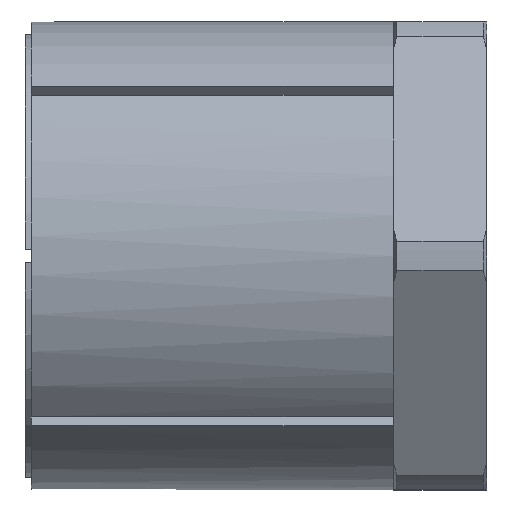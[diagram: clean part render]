
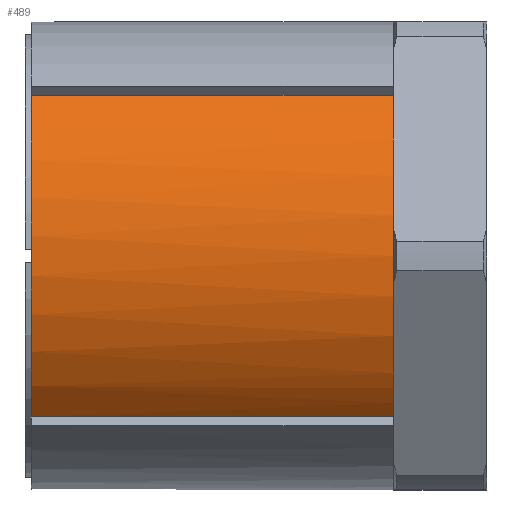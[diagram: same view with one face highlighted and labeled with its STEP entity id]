
A CAD part, front view. The second image highlights one B-rep face of the part: STEP entity #489.
In plain terms, the highlighted cylindrical face has radius 37.5 mm (diameter 75 mm), a partial arc.
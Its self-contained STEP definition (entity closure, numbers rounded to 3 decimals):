
#59 = AXIS2_PLACEMENT_3D ( 'NONE', #1754, #1764, #1765 ) ;
#62 = AXIS2_PLACEMENT_3D ( 'NONE', #1745, #1755, #1756 ) ;
#63 = AXIS2_PLACEMENT_3D ( 'NONE', #1742, #1752, #1753 ) ;
#64 = AXIS2_PLACEMENT_3D ( 'NONE', #1757, #1759, #1760 ) ;
#93 = EDGE_CURVE ( 'NONE', #1030, #357, #782, .T. ) ;
#94 = EDGE_CURVE ( 'NONE', #513, #2821, #783, .T. ) ;
#95 = EDGE_CURVE ( 'NONE', #2821, #259, #785, .T. ) ;
#96 = EDGE_CURVE ( 'NONE', #358, #357, #776, .T. ) ;
#97 = EDGE_CURVE ( 'NONE', #259, #358, #788, .T. ) ;
#98 = EDGE_CURVE ( 'NONE', #1030, #513, #781, .T. ) ;
#259 = VERTEX_POINT ( 'NONE', #2235 ) ;
#298 = AXIS2_PLACEMENT_3D ( 'NONE', #2595, #2594, #2593 ) ;
#357 = VERTEX_POINT ( 'NONE', #2245 ) ;
#358 = VERTEX_POINT ( 'NONE', #2246 ) ;
#489 = ADVANCED_FACE ( 'NONE', ( #1178 ), #1189, .T. ) ;
#513 = VERTEX_POINT ( 'NONE', #2662 ) ;
#776 = LINE ( 'NONE', #1761, #780 ) ;
#780 = VECTOR ( 'NONE', #1762, 1000. ) ;
#781 = LINE ( 'NONE', #1766, #784 ) ;
#782 = CIRCLE ( 'NONE', #63, 37.5 ) ;
#783 = CIRCLE ( 'NONE', #62, 37.5 ) ;
#784 = VECTOR ( 'NONE', #1767, 1000. ) ;
#785 = CIRCLE ( 'NONE', #64, 37.5 ) ;
#788 = CIRCLE ( 'NONE', #59, 37.5 ) ;
#1030 = VERTEX_POINT ( 'NONE', #2670 ) ;
#1178 = FACE_OUTER_BOUND ( 'NONE', #1309, .T. ) ;
#1189 = CYLINDRICAL_SURFACE ( 'NONE', #298, 37.5 ) ;
#1309 = EDGE_LOOP ( 'NONE', ( #1368, #1369, #1370, #1371, #1372, #1373 ) ) ;
#1368 = ORIENTED_EDGE ( 'NONE', *, *, #97, .T. ) ;
#1369 = ORIENTED_EDGE ( 'NONE', *, *, #96, .T. ) ;
#1370 = ORIENTED_EDGE ( 'NONE', *, *, #93, .F. ) ;
#1371 = ORIENTED_EDGE ( 'NONE', *, *, #98, .T. ) ;
#1372 = ORIENTED_EDGE ( 'NONE', *, *, #94, .T. ) ;
#1373 = ORIENTED_EDGE ( 'NONE', *, *, #95, .T. ) ;
#1742 = CARTESIAN_POINT ( 'NONE',  ( 0., 0., 0. ) ) ;
#1745 = CARTESIAN_POINT ( 'NONE',  ( 58., 0., 0. ) ) ;
#1752 = DIRECTION ( 'NONE',  ( -1., 0., 0. ) ) ;
#1753 = DIRECTION ( 'NONE',  ( 0., 0., 1. ) ) ;
#1754 = CARTESIAN_POINT ( 'NONE',  ( 58., 0., 0. ) ) ;
#1755 = DIRECTION ( 'NONE',  ( -1., 0., 0. ) ) ;
#1756 = DIRECTION ( 'NONE',  ( 0., 0., 1. ) ) ;
#1757 = CARTESIAN_POINT ( 'NONE',  ( 58., 0., 0. ) ) ;
#1759 = DIRECTION ( 'NONE',  ( -1., 0., 0. ) ) ;
#1760 = DIRECTION ( 'NONE',  ( 0., 0., 1. ) ) ;
#1761 = CARTESIAN_POINT ( 'NONE',  ( 0., -27.214, 25.8 ) ) ;
#1762 = DIRECTION ( 'NONE',  ( -1., 0., 0. ) ) ;
#1764 = DIRECTION ( 'NONE',  ( -1., 0., 0. ) ) ;
#1765 = DIRECTION ( 'NONE',  ( 0., 0., 1. ) ) ;
#1766 = CARTESIAN_POINT ( 'NONE',  ( 0., -27.214, -25.8 ) ) ;
#1767 = DIRECTION ( 'NONE',  ( 1., 0., 0. ) ) ;
#2235 = CARTESIAN_POINT ( 'NONE',  ( 58., -32.476, 18.75 ) ) ;
#2245 = CARTESIAN_POINT ( 'NONE',  ( 0., -27.214, 25.8 ) ) ;
#2246 = CARTESIAN_POINT ( 'NONE',  ( 58., -27.214, 25.8 ) ) ;
#2593 = DIRECTION ( 'NONE',  ( 0., 0., 1. ) ) ;
#2594 = DIRECTION ( 'NONE',  ( -1., 0., 0. ) ) ;
#2595 = CARTESIAN_POINT ( 'NONE',  ( 0., 0., 0. ) ) ;
#2662 = CARTESIAN_POINT ( 'NONE',  ( 58., -27.214, -25.8 ) ) ;
#2670 = CARTESIAN_POINT ( 'NONE',  ( 0., -27.214, -25.8 ) ) ;
#2780 = CARTESIAN_POINT ( 'NONE',  ( 58., -32.476, -18.75 ) ) ;
#2821 = VERTEX_POINT ( 'NONE', #2780 ) ;
